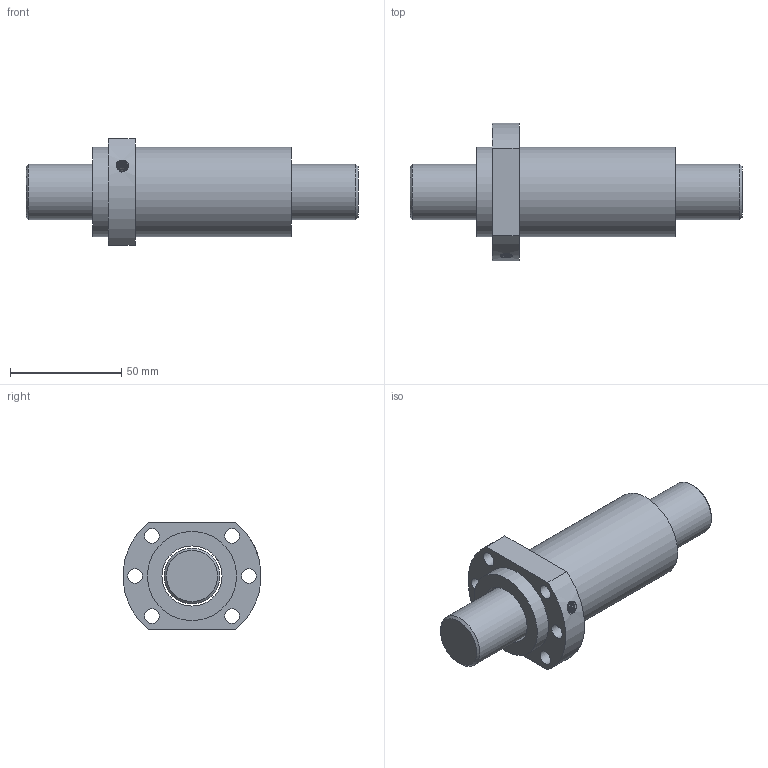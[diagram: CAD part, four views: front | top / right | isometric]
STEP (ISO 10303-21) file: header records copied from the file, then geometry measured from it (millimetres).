
FILE_DESCRIPTION (( 'STEP AP203' ), '1' );
FILE_NAME ('SFH2525-2.8.stp.STEP', '2023-08-16T03:53:35', ( '' ), ( '' ), 'SwSTEP 2.0', 'SolidWorks 2022', '' );
FILE_SCHEMA (( 'CONFIG_CONTROL_DESIGN' ));
Length unit declared in the file: millimetre
Products named in the file (1): SFH2525-2.8.stp
Bounding box: 149 x 61.8 x 48 mm (x, y, z)
Volume: 147828 mm3; surface area: 37595.6 mm2
Topology: 2 solids, 2 shells, 30 faces, 69 edges, 45 vertices
Faces by surface type: cylinder 16, plane 9, cone 3, bspline 2
Full cylindrical faces by diameter (mm): 4 x1, 4.917 x1, 6.6 x6, 25 x1, 27 x1, 40 x2
Entity records: 2606 total; most frequent: CARTESIAN_POINT 1906, DIRECTION 128, ORIENTED_EDGE 100, EDGE_LOOP 63, AXIS2_PLACEMENT_3D 60, EDGE_CURVE 50, FACE_OUTER_BOUND 42, VERTEX_POINT 41
